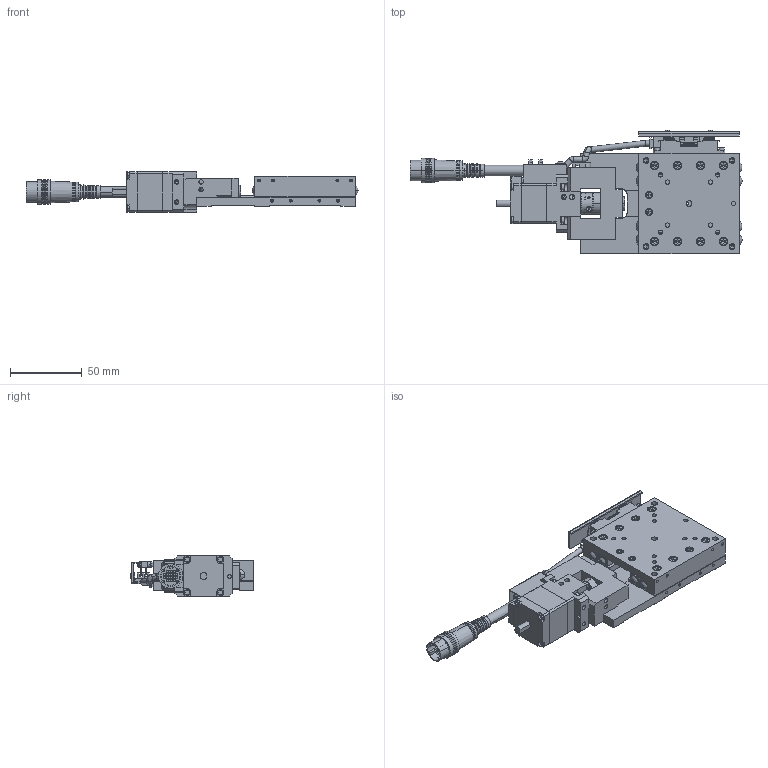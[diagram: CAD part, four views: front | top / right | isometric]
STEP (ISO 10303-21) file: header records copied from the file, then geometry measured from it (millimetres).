
FILE_DESCRIPTION (( 'STEP AP203' ), '1' );
FILE_NAME ('XA07F-R202-R.STEP', '2019-02-20T07:46:32', ( '' ), ( '' ), 'SwSTEP 2.0', 'SolidWorks 2018', '' );
FILE_SCHEMA (( 'CONFIG_CONTROL_DESIGN' ));
Length unit declared in the file: millimetre
Products named in the file (6): base; base-Part-3; XA07F-R202-R; base-Part-2; base-Part-1; table
Assembly tree (5 placements, depth 3):
  XA07F-R202-R
    base
      base-Part-1
      base-Part-2
      base-Part-3
    table
Bounding box: 231.39 x 86.18 x 28 mm (x, y, z)
Volume: 167994.9 mm3; surface area: 70975.7 mm2
Topology: 4 solids, 7 shells, 2182 faces, 5453 edges, 3349 vertices
Faces by surface type: plane 1264, cylinder 548, cone 300, torus 40, sphere 30
Entity records: 65720 total; most frequent: CARTESIAN_POINT 12125, DIRECTION 11510, ORIENTED_EDGE 10710, EDGE_CURVE 5355, AXIS2_PLACEMENT_3D 4112, VERTEX_POINT 3343, VECTOR 3286, LINE 3286
